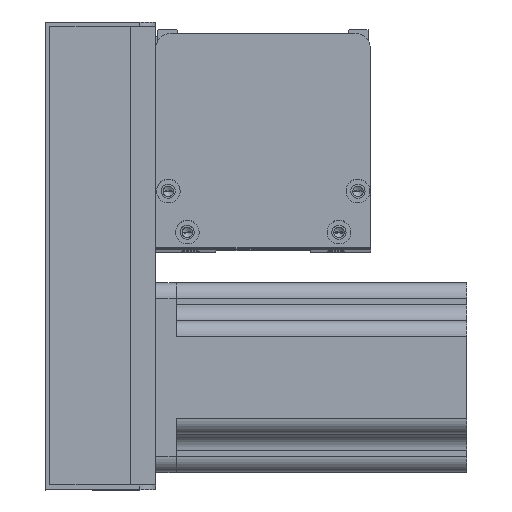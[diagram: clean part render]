
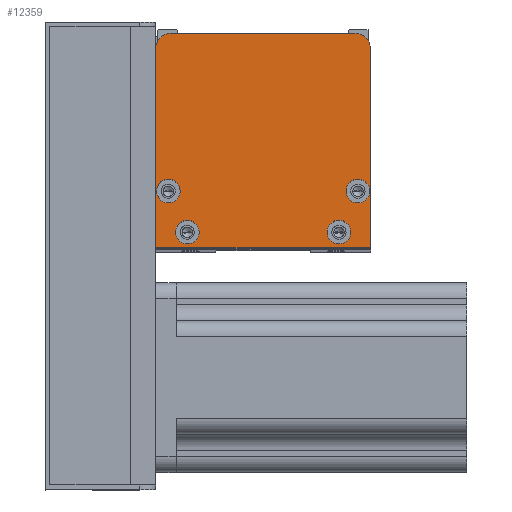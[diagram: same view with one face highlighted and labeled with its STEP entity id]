
A CAD part, top view. The second image highlights one B-rep face of the part: STEP entity #12359.
In plain terms, the highlighted planar face has unit normal (0, 0, 1) as drawn and (0, 0, -1) by its records, which use the part's own axes.
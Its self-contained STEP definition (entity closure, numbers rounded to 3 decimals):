
#262 = DIRECTION ( 'NONE',  ( -1., 0., 0. ) ) ;
#438 = DIRECTION ( 'NONE',  ( -1., 0., 0. ) ) ;
#558 = EDGE_LOOP ( 'NONE', ( #18227, #14890, #17667, #4585, #25983, #3959 ) ) ;
#870 = LINE ( 'NONE', #22605, #18324 ) ;
#1142 = DIRECTION ( 'NONE',  ( 1., 0., 0. ) ) ;
#1652 = FACE_BOUND ( 'NONE', #3851, .T. ) ;
#2336 = EDGE_CURVE ( 'NONE', #24902, #12963, #4314, .T. ) ;
#3259 = CARTESIAN_POINT ( 'NONE',  ( 61.75, 5., 0. ) ) ;
#3750 = DIRECTION ( 'NONE',  ( 0., -1., 0. ) ) ;
#3851 = EDGE_LOOP ( 'NONE', ( #6458, #14695 ) ) ;
#3959 = ORIENTED_EDGE ( 'NONE', *, *, #22193, .F. ) ;
#3974 = DIRECTION ( 'NONE',  ( 0., 1., 0. ) ) ;
#4092 = CARTESIAN_POINT ( 'NONE',  ( 0., 0., 0. ) ) ;
#4117 = CARTESIAN_POINT ( 'NONE',  ( 63., 68., 0. ) ) ;
#4233 = AXIS2_PLACEMENT_3D ( 'NONE', #22098, #4965, #11581 ) ;
#4314 = CIRCLE ( 'NONE', #4233, 3.75 ) ;
#4424 = CIRCLE ( 'NONE', #9607, 3.75 ) ;
#4458 = AXIS2_PLACEMENT_3D ( 'NONE', #6239, #23383, #21213 ) ;
#4486 = EDGE_CURVE ( 'NONE', #12082, #13148, #5392, .T. ) ;
#4528 = DIRECTION ( 'NONE',  ( -1., 0., 0. ) ) ;
#4530 = EDGE_LOOP ( 'NONE', ( #25532, #9191 ) ) ;
#4585 = ORIENTED_EDGE ( 'NONE', *, *, #22622, .T. ) ;
#4613 = CARTESIAN_POINT ( 'NONE',  ( 63., 63., 0. ) ) ;
#4765 = CARTESIAN_POINT ( 'NONE',  ( 4., 18., 0. ) ) ;
#4965 = DIRECTION ( 'NONE',  ( 0., 0., -1. ) ) ;
#5042 = DIRECTION ( 'NONE',  ( 0., 0., -1. ) ) ;
#5392 = CIRCLE ( 'NONE', #8364, 3.75 ) ;
#5576 = LINE ( 'NONE', #24456, #26671 ) ;
#5628 = DIRECTION ( 'NONE',  ( -1., 0., 0. ) ) ;
#6077 = AXIS2_PLACEMENT_3D ( 'NONE', #20516, #20336, #10127 ) ;
#6090 = VERTEX_POINT ( 'NONE', #20412 ) ;
#6239 = CARTESIAN_POINT ( 'NONE',  ( 10., 5., 0. ) ) ;
#6382 = CIRCLE ( 'NONE', #4458, 3.75 ) ;
#6458 = ORIENTED_EDGE ( 'NONE', *, *, #4486, .F. ) ;
#7441 = CARTESIAN_POINT ( 'NONE',  ( 0., 63., 0. ) ) ;
#7618 = CARTESIAN_POINT ( 'NONE',  ( 60.25, 18., 0. ) ) ;
#8345 = CIRCLE ( 'NONE', #11453, 3.75 ) ;
#8364 = AXIS2_PLACEMENT_3D ( 'NONE', #20531, #11873, #5628 ) ;
#8387 = VERTEX_POINT ( 'NONE', #7441 ) ;
#9191 = ORIENTED_EDGE ( 'NONE', *, *, #2336, .F. ) ;
#9331 = EDGE_CURVE ( 'NONE', #8387, #20278, #26296, .T. ) ;
#9492 = CARTESIAN_POINT ( 'NONE',  ( 54.25, 5., 0. ) ) ;
#9607 = AXIS2_PLACEMENT_3D ( 'NONE', #26229, #9813, #9716 ) ;
#9689 = CARTESIAN_POINT ( 'NONE',  ( 67.75, 18., 0. ) ) ;
#9716 = DIRECTION ( 'NONE',  ( -1., 0., 0. ) ) ;
#9813 = DIRECTION ( 'NONE',  ( 0., 0., -1. ) ) ;
#9900 = VECTOR ( 'NONE', #3974, 1000. ) ;
#9975 = DIRECTION ( 'NONE',  ( -1., 0., 0. ) ) ;
#10127 = DIRECTION ( 'NONE',  ( -1., 0., 0. ) ) ;
#10321 = DIRECTION ( 'NONE',  ( 1., 0., 0. ) ) ;
#10404 = DIRECTION ( 'NONE',  ( 0., 0., 1. ) ) ;
#11139 = DIRECTION ( 'NONE',  ( 1., 0., 0. ) ) ;
#11453 = AXIS2_PLACEMENT_3D ( 'NONE', #4765, #25693, #438 ) ;
#11489 = EDGE_LOOP ( 'NONE', ( #24073, #14431 ) ) ;
#11581 = DIRECTION ( 'NONE',  ( -1., 0., 0. ) ) ;
#11873 = DIRECTION ( 'NONE',  ( 0., 0., -1. ) ) ;
#11889 = EDGE_CURVE ( 'NONE', #17931, #6090, #15811, .T. ) ;
#12004 = AXIS2_PLACEMENT_3D ( 'NONE', #23601, #5042, #25879 ) ;
#12082 = VERTEX_POINT ( 'NONE', #9492 ) ;
#12359 = ADVANCED_FACE ( 'NONE', ( #16771, #23757, #20084, #1652, #21731 ), #22963, .F. ) ;
#12465 = CIRCLE ( 'NONE', #20322, 3.75 ) ;
#12701 = CIRCLE ( 'NONE', #6077, 3.75 ) ;
#12877 = DIRECTION ( 'NONE',  ( 0., 0., -1. ) ) ;
#12963 = VERTEX_POINT ( 'NONE', #25124 ) ;
#13104 = ORIENTED_EDGE ( 'NONE', *, *, #16683, .F. ) ;
#13148 = VERTEX_POINT ( 'NONE', #3259 ) ;
#13615 = AXIS2_PLACEMENT_3D ( 'NONE', #4613, #23542, #11139 ) ;
#13932 = CARTESIAN_POINT ( 'NONE',  ( 6.25, 5., 0. ) ) ;
#13939 = CARTESIAN_POINT ( 'NONE',  ( 13.75, 5., 0. ) ) ;
#14192 = EDGE_LOOP ( 'NONE', ( #24592, #13104 ) ) ;
#14431 = ORIENTED_EDGE ( 'NONE', *, *, #24074, .F. ) ;
#14695 = ORIENTED_EDGE ( 'NONE', *, *, #22582, .F. ) ;
#14782 = VERTEX_POINT ( 'NONE', #21828 ) ;
#14890 = ORIENTED_EDGE ( 'NONE', *, *, #21301, .T. ) ;
#14903 = CARTESIAN_POINT ( 'NONE',  ( 10., 5., 0. ) ) ;
#15193 = DIRECTION ( 'NONE',  ( 0., 0., -1. ) ) ;
#15668 = EDGE_CURVE ( 'NONE', #24593, #18628, #17578, .T. ) ;
#15811 = LINE ( 'NONE', #16192, #9900 ) ;
#16192 = CARTESIAN_POINT ( 'NONE',  ( 68., 0., 0. ) ) ;
#16467 = CIRCLE ( 'NONE', #12004, 5. ) ;
#16683 = EDGE_CURVE ( 'NONE', #18628, #24593, #6382, .T. ) ;
#16771 = FACE_BOUND ( 'NONE', #11489, .T. ) ;
#17153 = VERTEX_POINT ( 'NONE', #9689 ) ;
#17220 = CARTESIAN_POINT ( 'NONE',  ( 58., 5., 0. ) ) ;
#17578 = CIRCLE ( 'NONE', #26858, 3.75 ) ;
#17667 = ORIENTED_EDGE ( 'NONE', *, *, #23436, .F. ) ;
#17692 = VECTOR ( 'NONE', #3750, 1000. ) ;
#17931 = VERTEX_POINT ( 'NONE', #26810 ) ;
#18227 = ORIENTED_EDGE ( 'NONE', *, *, #9331, .F. ) ;
#18324 = VECTOR ( 'NONE', #9975, 1000. ) ;
#18444 = CARTESIAN_POINT ( 'NONE',  ( 0., 0., 0. ) ) ;
#18522 = VERTEX_POINT ( 'NONE', #7618 ) ;
#18628 = VERTEX_POINT ( 'NONE', #13939 ) ;
#18862 = CARTESIAN_POINT ( 'NONE',  ( 0., 0., 0. ) ) ;
#19837 = EDGE_CURVE ( 'NONE', #12963, #24902, #8345, .T. ) ;
#20084 = FACE_BOUND ( 'NONE', #14192, .T. ) ;
#20278 = VERTEX_POINT ( 'NONE', #4092 ) ;
#20322 = AXIS2_PLACEMENT_3D ( 'NONE', #17220, #15193, #4528 ) ;
#20336 = DIRECTION ( 'NONE',  ( 0., 0., -1. ) ) ;
#20412 = CARTESIAN_POINT ( 'NONE',  ( 68., 63., 0. ) ) ;
#20516 = CARTESIAN_POINT ( 'NONE',  ( 64., 18., 0. ) ) ;
#20531 = CARTESIAN_POINT ( 'NONE',  ( 58., 5., 0. ) ) ;
#21213 = DIRECTION ( 'NONE',  ( -1., 0., 0. ) ) ;
#21301 = EDGE_CURVE ( 'NONE', #8387, #14782, #16467, .T. ) ;
#21731 = FACE_OUTER_BOUND ( 'NONE', #558, .T. ) ;
#21828 = CARTESIAN_POINT ( 'NONE',  ( 5., 68., 0. ) ) ;
#22098 = CARTESIAN_POINT ( 'NONE',  ( 4., 18., 0. ) ) ;
#22193 = EDGE_CURVE ( 'NONE', #20278, #17931, #5576, .T. ) ;
#22582 = EDGE_CURVE ( 'NONE', #13148, #12082, #12465, .T. ) ;
#22605 = CARTESIAN_POINT ( 'NONE',  ( 68., 68., 0. ) ) ;
#22622 = EDGE_CURVE ( 'NONE', #27028, #6090, #23071, .T. ) ;
#22963 = PLANE ( 'NONE',  #25930 ) ;
#23071 = CIRCLE ( 'NONE', #13615, 5. ) ;
#23383 = DIRECTION ( 'NONE',  ( 0., 0., -1. ) ) ;
#23436 = EDGE_CURVE ( 'NONE', #27028, #14782, #870, .T. ) ;
#23542 = DIRECTION ( 'NONE',  ( 0., 0., -1. ) ) ;
#23601 = CARTESIAN_POINT ( 'NONE',  ( 5., 63., 0. ) ) ;
#23757 = FACE_BOUND ( 'NONE', #4530, .T. ) ;
#24073 = ORIENTED_EDGE ( 'NONE', *, *, #24629, .F. ) ;
#24074 = EDGE_CURVE ( 'NONE', #17153, #18522, #12701, .T. ) ;
#24456 = CARTESIAN_POINT ( 'NONE',  ( 68., 0., 0. ) ) ;
#24592 = ORIENTED_EDGE ( 'NONE', *, *, #15668, .F. ) ;
#24593 = VERTEX_POINT ( 'NONE', #13932 ) ;
#24629 = EDGE_CURVE ( 'NONE', #18522, #17153, #4424, .T. ) ;
#24902 = VERTEX_POINT ( 'NONE', #25987 ) ;
#25124 = CARTESIAN_POINT ( 'NONE',  ( 0.25, 18., 0. ) ) ;
#25532 = ORIENTED_EDGE ( 'NONE', *, *, #19837, .F. ) ;
#25693 = DIRECTION ( 'NONE',  ( 0., 0., -1. ) ) ;
#25879 = DIRECTION ( 'NONE',  ( 1., 0., 0. ) ) ;
#25930 = AXIS2_PLACEMENT_3D ( 'NONE', #18862, #10404, #10321 ) ;
#25983 = ORIENTED_EDGE ( 'NONE', *, *, #11889, .F. ) ;
#25987 = CARTESIAN_POINT ( 'NONE',  ( 7.75, 18., 0. ) ) ;
#26229 = CARTESIAN_POINT ( 'NONE',  ( 64., 18., 0. ) ) ;
#26296 = LINE ( 'NONE', #18444, #17692 ) ;
#26671 = VECTOR ( 'NONE', #1142, 1000. ) ;
#26810 = CARTESIAN_POINT ( 'NONE',  ( 68., 0., 0. ) ) ;
#26858 = AXIS2_PLACEMENT_3D ( 'NONE', #14903, #12877, #262 ) ;
#27028 = VERTEX_POINT ( 'NONE', #4117 ) ;
